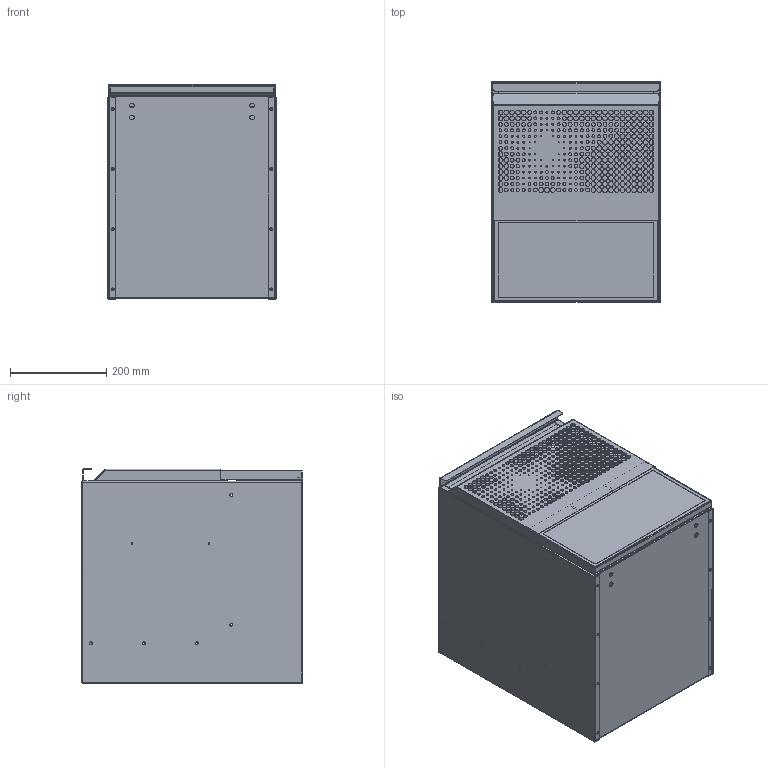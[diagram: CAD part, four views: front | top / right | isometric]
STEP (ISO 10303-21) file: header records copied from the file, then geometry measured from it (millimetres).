
FILE_DESCRIPTION (( 'STEP AP214' ), '1' );
FILE_NAME ('MS-IFU-350-460.STEP', '2024-05-30T12:28:06', ( '' ), ( '' ), 'SwSTEP 2.0', 'SolidWorks 2023', '' );
FILE_SCHEMA (( 'AUTOMOTIVE_DESIGN' ));
Length unit declared in the file: millimetre
Products named in the file (1): MS-IFU-350-460
Bounding box: 350 x 460.36 x 445.11 mm (x, y, z)
Volume: 1111391.9 mm3; surface area: 2273653.8 mm2
Topology: 8 solids, 8 shells, 1643 faces, 4713 edges, 3086 vertices
Faces by surface type: cylinder 1193, plane 370, cone 60, bspline 20
Entity records: 58001 total; most frequent: CARTESIAN_POINT 10809, DIRECTION 10335, ORIENTED_EDGE 9426, EDGE_CURVE 4713, AXIS2_PLACEMENT_3D 4038, VERTEX_POINT 3086, EDGE_LOOP 2609, CIRCLE 2414
